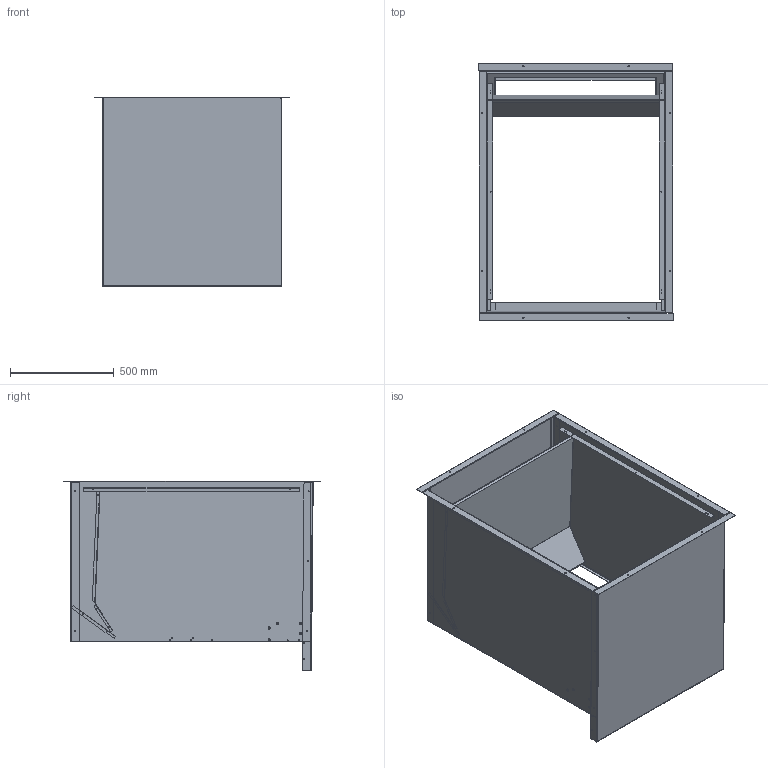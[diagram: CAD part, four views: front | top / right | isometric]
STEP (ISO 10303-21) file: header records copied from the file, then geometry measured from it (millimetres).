
FILE_DESCRIPTION (( 'STEP AP203' ), '1' );
FILE_NAME ('QWS42A-30.STEP', '2014-03-14T15:31:34', ( 'generic' ), ( 'Hewlett-Packard Company' ), 'SwSTEP 2.0', 'SolidWorks 2014', '' );
FILE_SCHEMA (( 'CONFIG_CONTROL_DESIGN' ));
Length unit declared in the file: inch
Products named in the file (8): 104-988; 110-118; 110-119; 110-121; 110-120; 120-393; 130-120; QWS42A-30
Assembly tree (8 placements, depth 2):
  QWS42A-30
    104-988  x2
    110-118
    110-119
    110-121
    110-120
    120-393
    130-120
Bounding box: 937.36 x 1244.37 x 916.82 mm (x, y, z)
Volume: 6459532.9 mm3; surface area: 9154266.1 mm2
Topology: 8 solids, 8 shells, 669 faces, 1665 edges, 1004 vertices
Faces by surface type: plane 316, cylinder 287, bspline 26, sphere 20, torus 20
Entity records: 21295 total; most frequent: CARTESIAN_POINT 4735, DIRECTION 3329, ORIENTED_EDGE 3190, EDGE_CURVE 1595, AXIS2_PLACEMENT_3D 1220, VERTEX_POINT 960, VECTOR 889, LINE 889
